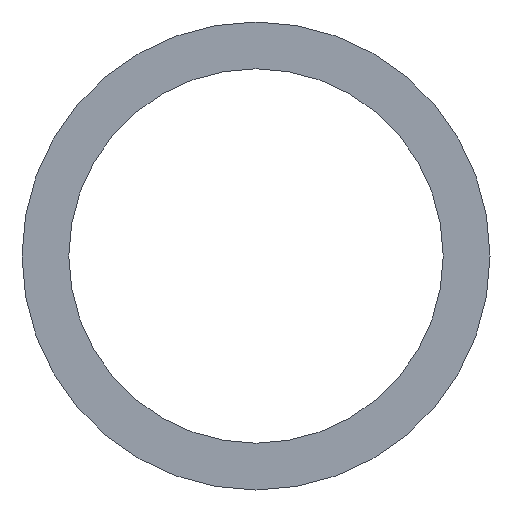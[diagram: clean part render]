
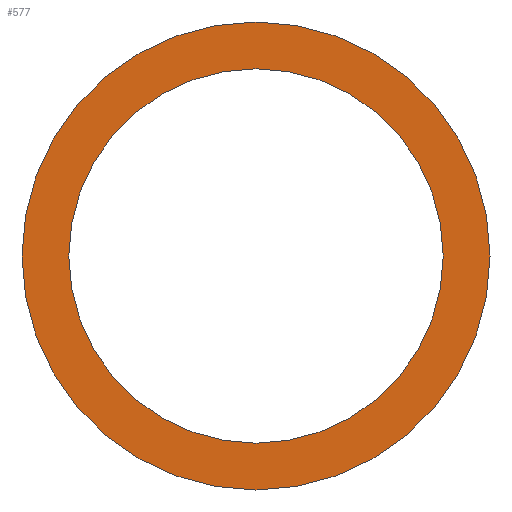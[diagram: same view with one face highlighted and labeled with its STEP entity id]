
A CAD part, left-side view. The second image highlights one B-rep face of the part: STEP entity #577.
In plain terms, the highlighted planar face has unit normal (-1, 0, 0).
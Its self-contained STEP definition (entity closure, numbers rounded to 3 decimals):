
#46 = AXIS2_PLACEMENT_3D ( 'NONE', #629, #322, #427 ) ;
#54 = PLANE ( 'NONE',  #346 ) ;
#59 = EDGE_CURVE ( 'NONE', #502, #313, #249, .T. ) ;
#71 = EDGE_CURVE ( 'NONE', #567, #120, #520, .T. ) ;
#73 = EDGE_LOOP ( 'NONE', ( #125, #242 ) ) ;
#113 = CARTESIAN_POINT ( 'NONE',  ( 0., 32., 0. ) ) ;
#115 = CIRCLE ( 'NONE', #292, 32. ) ;
#120 = VERTEX_POINT ( 'NONE', #232 ) ;
#125 = ORIENTED_EDGE ( 'NONE', *, *, #556, .F. ) ;
#136 = CARTESIAN_POINT ( 'NONE',  ( 0., 0., -32. ) ) ;
#216 = DIRECTION ( 'NONE',  ( 0., 0., 1. ) ) ;
#225 = DIRECTION ( 'NONE',  ( -1., 0., 0. ) ) ;
#232 = CARTESIAN_POINT ( 'NONE',  ( 0., 0., -40. ) ) ;
#233 = CARTESIAN_POINT ( 'NONE',  ( 0., 0., 32. ) ) ;
#234 = CIRCLE ( 'NONE', #548, 40. ) ;
#242 = ORIENTED_EDGE ( 'NONE', *, *, #59, .F. ) ;
#249 = CIRCLE ( 'NONE', #367, 32. ) ;
#292 = AXIS2_PLACEMENT_3D ( 'NONE', #517, #358, #448 ) ;
#313 = VERTEX_POINT ( 'NONE', #233 ) ;
#318 = CARTESIAN_POINT ( 'NONE',  ( 0., 0., 0. ) ) ;
#322 = DIRECTION ( 'NONE',  ( -1., 0., 0. ) ) ;
#346 = AXIS2_PLACEMENT_3D ( 'NONE', #113, #463, #458 ) ;
#358 = DIRECTION ( 'NONE',  ( -1., 0., 0. ) ) ;
#366 = CARTESIAN_POINT ( 'NONE',  ( 0., 0., 0. ) ) ;
#367 = AXIS2_PLACEMENT_3D ( 'NONE', #366, #511, #216 ) ;
#427 = DIRECTION ( 'NONE',  ( 0., 0., 1. ) ) ;
#447 = FACE_BOUND ( 'NONE', #73, .T. ) ;
#448 = DIRECTION ( 'NONE',  ( 0., 0., 1. ) ) ;
#458 = DIRECTION ( 'NONE',  ( 0., 0., -1. ) ) ;
#463 = DIRECTION ( 'NONE',  ( 1., 0., 0. ) ) ;
#484 = ORIENTED_EDGE ( 'NONE', *, *, #71, .T. ) ;
#502 = VERTEX_POINT ( 'NONE', #136 ) ;
#508 = FACE_OUTER_BOUND ( 'NONE', #635, .T. ) ;
#511 = DIRECTION ( 'NONE',  ( -1., 0., 0. ) ) ;
#517 = CARTESIAN_POINT ( 'NONE',  ( 0., 0., 0. ) ) ;
#520 = CIRCLE ( 'NONE', #46, 40. ) ;
#528 = ORIENTED_EDGE ( 'NONE', *, *, #620, .T. ) ;
#548 = AXIS2_PLACEMENT_3D ( 'NONE', #318, #225, #576 ) ;
#552 = CARTESIAN_POINT ( 'NONE',  ( 0., 0., 40. ) ) ;
#556 = EDGE_CURVE ( 'NONE', #313, #502, #115, .T. ) ;
#567 = VERTEX_POINT ( 'NONE', #552 ) ;
#576 = DIRECTION ( 'NONE',  ( 0., 0., 1. ) ) ;
#577 = ADVANCED_FACE ( 'NONE', ( #447, #508 ), #54, .F. ) ;
#620 = EDGE_CURVE ( 'NONE', #120, #567, #234, .T. ) ;
#629 = CARTESIAN_POINT ( 'NONE',  ( 0., 0., 0. ) ) ;
#635 = EDGE_LOOP ( 'NONE', ( #484, #528 ) ) ;
